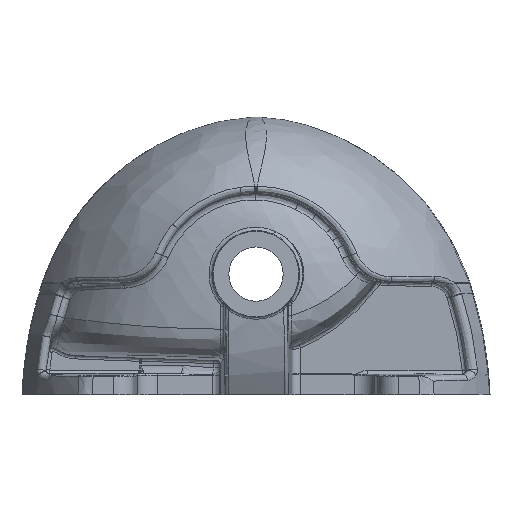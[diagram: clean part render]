
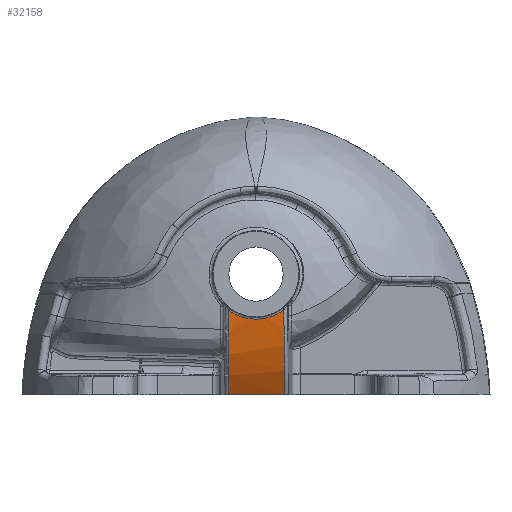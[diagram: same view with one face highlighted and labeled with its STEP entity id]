
A CAD part, front view. The second image highlights one B-rep face of the part: STEP entity #32158.
In plain terms, the highlighted cylindrical face has radius 139.469 mm (diameter 278.937 mm), a partial arc.
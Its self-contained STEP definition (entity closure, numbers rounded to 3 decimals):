
#103 = VERTEX_POINT ( 'NONE', #9930 ) ;
#881 = VECTOR ( 'NONE', #32261, 1000. ) ;
#981 =( BOUNDED_CURVE ( )  B_SPLINE_CURVE ( 3, ( #20620, #6048, #36165, #21408 ),
 .UNSPECIFIED., .F., .T. ) 
 B_SPLINE_CURVE_WITH_KNOTS ( ( 4, 4 ),
 ( 5.691, 6.231 ),
 .UNSPECIFIED. ) 
 CURVE ( )  GEOMETRIC_REPRESENTATION_ITEM ( )  RATIONAL_B_SPLINE_CURVE ( ( 1., 0.976, 0.976, 1. ) ) 
 REPRESENTATION_ITEM ( '' )  );
#1037 = EDGE_CURVE ( 'NONE', #103, #5754, #31372, .T. ) ;
#1463 = CARTESIAN_POINT ( 'NONE',  ( -1.576, -146.431, -81.836 ) ) ;
#1847 = CARTESIAN_POINT ( 'NONE',  ( 21.528, -146.259, -75.208 ) ) ;
#2044 = CARTESIAN_POINT ( 'NONE',  ( -3.612, -146.51, -81.709 ) ) ;
#4410 = CARTESIAN_POINT ( 'NONE',  ( 11.973, -146.191, -79.918 ) ) ;
#4777 = B_SPLINE_CURVE_WITH_KNOTS ( 'NONE', 3,
 ( #37678, #1847, #10711, #37292, #4999, #4410, #10327, #7362, #10902, #16443, #28832, #19781, #22537, #17021, #13665, #1463, #29026, #2044, #19387, #31384, #16634, #25486, #13859, #13471, #38072, #14056, #34330, #25298 ),
 .UNSPECIFIED., .F., .F.,
 ( 4, 2, 2, 2, 2, 2, 2, 2, 2, 2, 2, 2, 2, 4 ),
 ( 0., 0.006, 0.012, 0.014, 0.015, 0.018, 0.024, 0.026, 0.027, 0.03, 0.037, 0.04, 0.043, 0.049 ),
 .UNSPECIFIED. ) ;
#4999 = CARTESIAN_POINT ( 'NONE',  ( 14.396, -146.193, -79.074 ) ) ;
#5754 = VERTEX_POINT ( 'NONE', #29824 ) ;
#5911 = CARTESIAN_POINT ( 'NONE',  ( 23.154, -146.272, -73.949 ) ) ;
#6048 = CARTESIAN_POINT ( 'NONE',  ( 23.443, -136.885, -123.419 ) ) ;
#7362 = CARTESIAN_POINT ( 'NONE',  ( 10.504, -146.194, -80.375 ) ) ;
#8042 = CARTESIAN_POINT ( 'NONE',  ( 26.224, -122.609, -144.5 ) ) ;
#8208 = CARTESIAN_POINT ( 'NONE',  ( 60.057, -5.733, -66.66 ) ) ;
#9930 = CARTESIAN_POINT ( 'NONE',  ( -22.414, -147.706, -74.57 ) ) ;
#10327 = CARTESIAN_POINT ( 'NONE',  ( 11.484, -146.192, -80.078 ) ) ;
#10711 = CARTESIAN_POINT ( 'NONE',  ( 19.822, -146.239, -76.318 ) ) ;
#10902 = CARTESIAN_POINT ( 'NONE',  ( 10.013, -146.196, -80.513 ) ) ;
#11749 = CYLINDRICAL_SURFACE ( 'NONE', #18607, 139.469 ) ;
#13471 = CARTESIAN_POINT ( 'NONE',  ( -15.381, -147.189, -78.646 ) ) ;
#13665 = CARTESIAN_POINT ( 'NONE',  ( -0.552, -146.395, -81.863 ) ) ;
#13859 = CARTESIAN_POINT ( 'NONE',  ( -13.493, -147.059, -79.419 ) ) ;
#14056 = CARTESIAN_POINT ( 'NONE',  ( -19.022, -147.452, -76.845 ) ) ;
#15647 = AXIS2_PLACEMENT_3D ( 'NONE', #32553, #36093, #23904 ) ;
#16443 = CARTESIAN_POINT ( 'NONE',  ( 8.534, -146.205, -80.898 ) ) ;
#16634 = CARTESIAN_POINT ( 'NONE',  ( -9.605, -146.811, -80.698 ) ) ;
#16726 = LINE ( 'NONE', #8042, #881 ) ;
#17021 = CARTESIAN_POINT ( 'NONE',  ( -0.038, -146.378, -81.867 ) ) ;
#17277 = DIRECTION ( 'NONE',  ( 0.032, -0.999, 0. ) ) ;
#17651 = VERTEX_POINT ( 'NONE', #5911 ) ;
#18607 = AXIS2_PLACEMENT_3D ( 'NONE', #8208, #25944, #17277 ) ;
#19387 = CARTESIAN_POINT ( 'NONE',  ( -4.622, -146.555, -81.6 ) ) ;
#19773 = EDGE_CURVE ( 'NONE', #24743, #5754, #16726, .T. ) ;
#19781 = CARTESIAN_POINT ( 'NONE',  ( 4.546, -146.256, -81.64 ) ) ;
#20103 = ORIENTED_EDGE ( 'NONE', *, *, #1037, .T. ) ;
#20564 = EDGE_CURVE ( 'NONE', #17651, #103, #4777, .T. ) ;
#20620 = CARTESIAN_POINT ( 'NONE',  ( 23.881, -122.684, -144.5 ) ) ;
#21408 = CARTESIAN_POINT ( 'NONE',  ( 23.154, -146.272, -73.949 ) ) ;
#22537 = CARTESIAN_POINT ( 'NONE',  ( 2.523, -146.299, -81.832 ) ) ;
#23271 = EDGE_CURVE ( 'NONE', #24743, #17651, #981, .T. ) ;
#23387 = ORIENTED_EDGE ( 'NONE', *, *, #20564, .T. ) ;
#23904 = DIRECTION ( 'NONE',  ( 0.032, -0.999, 0. ) ) ;
#24743 = VERTEX_POINT ( 'NONE', #25190 ) ;
#25190 = CARTESIAN_POINT ( 'NONE',  ( 23.881, -122.684, -144.5 ) ) ;
#25298 = CARTESIAN_POINT ( 'NONE',  ( -22.414, -147.706, -74.57 ) ) ;
#25486 = CARTESIAN_POINT ( 'NONE',  ( -12.526, -146.995, -79.77 ) ) ;
#25944 = DIRECTION ( 'NONE',  ( -0.999, -0.032, 0. ) ) ;
#26136 = FACE_OUTER_BOUND ( 'NONE', #29257, .T. ) ;
#28832 = CARTESIAN_POINT ( 'NONE',  ( 7.542, -146.215, -81.113 ) ) ;
#29026 = CARTESIAN_POINT ( 'NONE',  ( -2.087, -146.45, -81.812 ) ) ;
#29257 = EDGE_LOOP ( 'NONE', ( #34069, #23387, #20103, #36733 ) ) ;
#29824 = CARTESIAN_POINT ( 'NONE',  ( -23.172, -124.2, -144.5 ) ) ;
#31372 = CIRCLE ( 'NONE', #15647, 139.469 ) ;
#31384 = CARTESIAN_POINT ( 'NONE',  ( -7.629, -146.699, -81.154 ) ) ;
#32158 = ADVANCED_FACE ( 'NONE', ( #26136 ), #11749, .T. ) ;
#32261 = DIRECTION ( 'NONE',  ( -0.999, -0.032, 0. ) ) ;
#32553 = CARTESIAN_POINT ( 'NONE',  ( -26.898, -8.534, -66.66 ) ) ;
#34069 = ORIENTED_EDGE ( 'NONE', *, *, #23271, .T. ) ;
#34330 = CARTESIAN_POINT ( 'NONE',  ( -20.757, -147.584, -75.783 ) ) ;
#36093 = DIRECTION ( 'NONE',  ( 0.999, 0.032, 0. ) ) ;
#36165 = CARTESIAN_POINT ( 'NONE',  ( 23.195, -144.942, -99.32 ) ) ;
#36733 = ORIENTED_EDGE ( 'NONE', *, *, #19773, .F. ) ;
#37292 = CARTESIAN_POINT ( 'NONE',  ( 16.256, -146.206, -78.251 ) ) ;
#37678 = CARTESIAN_POINT ( 'NONE',  ( 23.154, -146.272, -73.949 ) ) ;
#38072 = CARTESIAN_POINT ( 'NONE',  ( -16.306, -147.254, -78.223 ) ) ;
